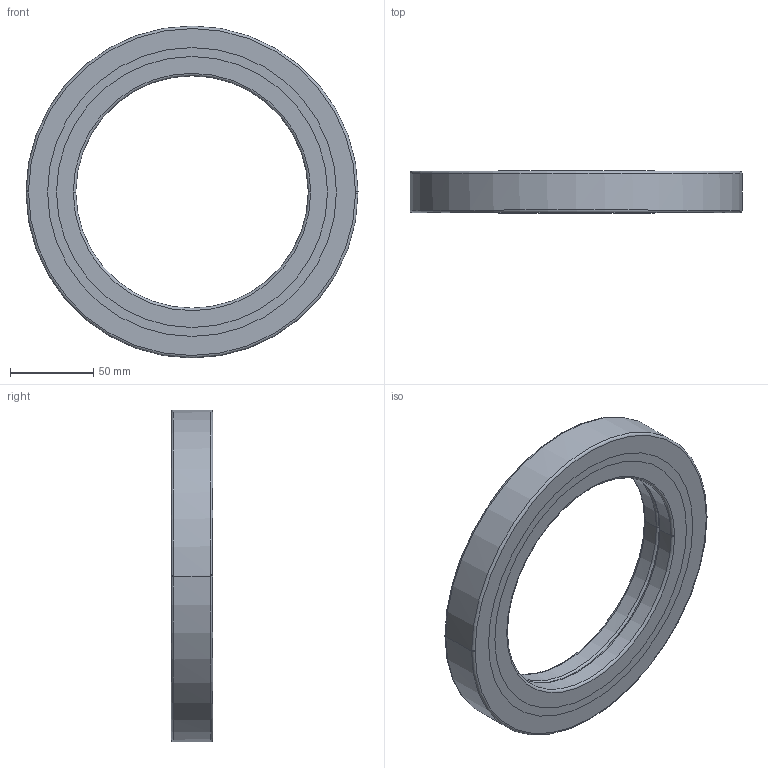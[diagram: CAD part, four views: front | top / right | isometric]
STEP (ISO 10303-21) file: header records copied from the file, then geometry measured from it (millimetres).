
FILE_DESCRIPTION(('no description'),'unknown implementation level');
FILE_NAME('CRBB14025_69.stp',' ',('HIWIN GmbH'),('CADClick - KiM GmbH - www.kimweb.de'),'unknown preprocess','ACIS','unknown authorization');
FILE_SCHEMA(('automotive_design'));
Length unit declared in the file: millimetre
Products named in the file (5): CRBB14025_1; CRBB14025_2; CRBB14025_3; CRBB14025_4; CRBB14025
Bounding box: 200 x 25 x 200 mm (x, y, z)
Volume: 337599.8 mm3; surface area: 103769.3 mm2
Topology: 5 solids, 5 shells, 54 faces, 120 edges, 76 vertices
Faces by surface type: torus 24, cylinder 20, plane 10
Entity records: 3096 total; most frequent: DIRECTION 338, STYLED_ITEM 255, PRESENTATION_STYLE_ASSIGNMENT 255, CARTESIAN_POINT 255, COLOUR_RGB 255, ORIENTED_EDGE 240, AXIS2_PLACEMENT_3D 159, EDGE_CURVE 120
